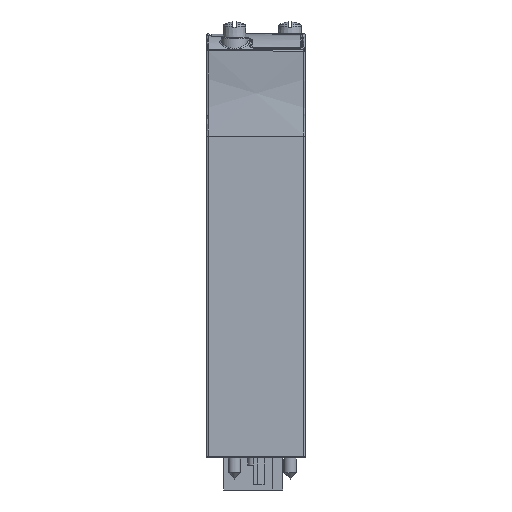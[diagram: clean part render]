
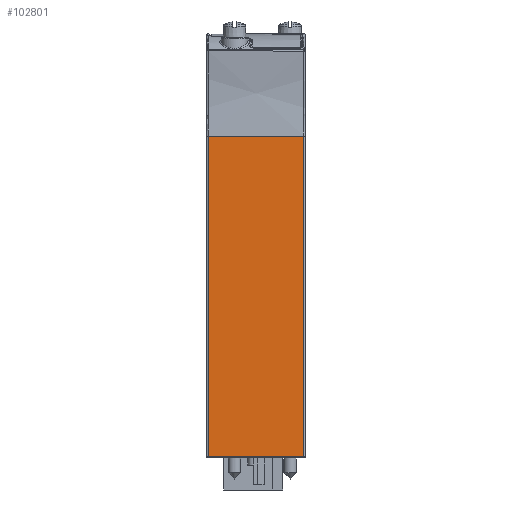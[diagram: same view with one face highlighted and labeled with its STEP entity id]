
A CAD part, front view. The second image highlights one B-rep face of the part: STEP entity #102801.
In plain terms, the highlighted planar face has unit normal (-0.009, -1, 0).
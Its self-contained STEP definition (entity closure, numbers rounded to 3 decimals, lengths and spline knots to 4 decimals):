
#77=DIRECTION('',(0.,0.,1.));
#78=VECTOR('',#77,2.502);
#79=CARTESIAN_POINT('',(0.0099,-2.0438,0.01));
#80=LINE('',#79,#78);
#38028=CARTESIAN_POINT('',(0.0099,-2.0438,
2.512));
#38029=CARTESIAN_POINT('',(0.0933,-2.0445,
2.512));
#38030=CARTESIAN_POINT('',(0.26,-2.046,
2.5122));
#38031=CARTESIAN_POINT('',(0.5096,-2.0482,
2.5123));
#38032=CARTESIAN_POINT('',(0.6759,-2.0496,
2.5125));
#38033=CARTESIAN_POINT('',(0.7589,-2.0503,
2.5125));
#38035=DIRECTION('',(0.,0.,-1.));
#38036=VECTOR('',#38035,2.5025);
#38037=CARTESIAN_POINT('',(0.7589,-2.0503,
2.5125));
#38038=LINE('',#38037,#38036);
#38062=DIRECTION('',(-1.,0.009,0.));
#38063=VECTOR('',#38062,0.749);
#38064=CARTESIAN_POINT('',(0.7589,-2.0503,0.01));
#38065=LINE('',#38064,#38063);
#44905=CARTESIAN_POINT('',(0.0099,-2.0438,0.01));
#44906=CARTESIAN_POINT('',(0.0099,-2.0438,
2.512));
#44907=VERTEX_POINT('',#44905);
#44908=VERTEX_POINT('',#44906);
#44913=CARTESIAN_POINT('',(0.7589,-2.0503,
2.5125));
#44914=CARTESIAN_POINT('',(0.7589,-2.0503,0.01));
#44915=VERTEX_POINT('',#44913);
#44916=VERTEX_POINT('',#44914);
#102788=CARTESIAN_POINT('',(0.719,-2.05,4.34));
#102789=DIRECTION('',(-0.009,-1.,0.));
#102790=DIRECTION('',(0.,0.,-1.));
#102791=AXIS2_PLACEMENT_3D('',#102788,#102789,#102790);
#102792=PLANE('',#102791);
#102793=ORIENTED_EDGE('',*,*,#52644,.T.);
#102794=ORIENTED_EDGE('',*,*,#54196,.T.);
#102796=ORIENTED_EDGE('',*,*,#102795,.T.);
#102798=ORIENTED_EDGE('',*,*,#102797,.T.);
#102799=EDGE_LOOP('',(#102793,#102794,#102796,#102798));
#102800=FACE_OUTER_BOUND('',#102799,.F.);
#102801=ADVANCED_FACE('',(#102800),#102792,.T.);
#38034=B_SPLINE_CURVE_WITH_KNOTS('',3,(#38028,#38029,#38030,#38031,#38032,
#38033),.UNSPECIFIED.,.F.,.F.,(4,1,1,4),(0.,0.3333,
0.6667,1.),.UNSPECIFIED.);
#52644=EDGE_CURVE('',#44907,#44908,#80,.T.);
#54196=EDGE_CURVE('',#44908,#44915,#38034,.T.);
#102795=EDGE_CURVE('',#44915,#44916,#38038,.T.);
#102797=EDGE_CURVE('',#44916,#44907,#38065,.T.);
